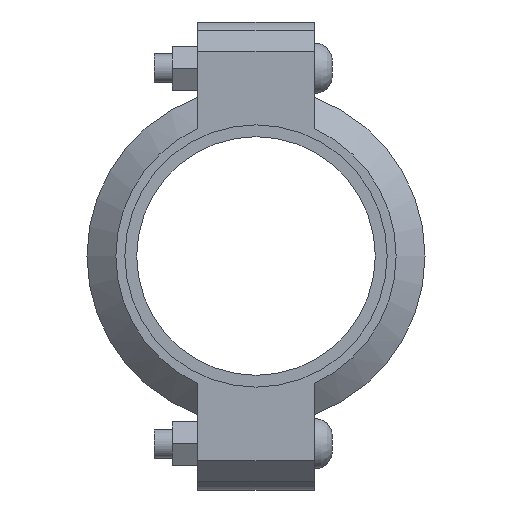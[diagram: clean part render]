
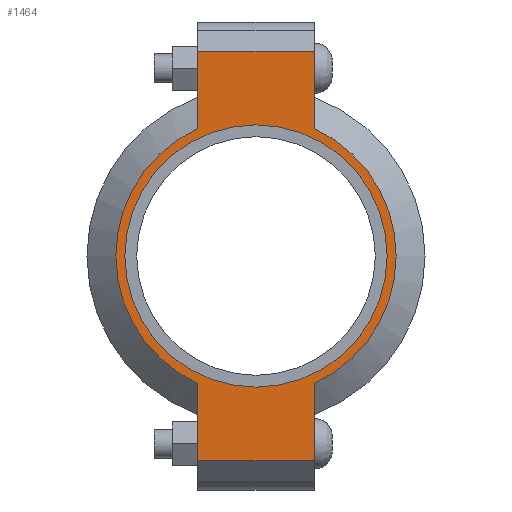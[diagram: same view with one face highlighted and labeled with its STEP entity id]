
A CAD part, left-side view. The second image highlights one B-rep face of the part: STEP entity #1464.
In plain terms, the highlighted planar face has unit normal (-1, 0, 0) as drawn and (0, 0, 1) by its records, which use the part's own axes.
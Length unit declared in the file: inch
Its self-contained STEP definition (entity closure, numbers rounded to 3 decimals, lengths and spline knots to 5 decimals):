
#144=LINE('',#2521,#235);
#152=LINE('',#2557,#243);
#159=LINE('',#2578,#250);
#168=LINE('',#2610,#259);
#169=LINE('',#2614,#260);
#170=LINE('',#2616,#261);
#235=VECTOR('',#2039,0.3937);
#243=VECTOR('',#2055,0.3937);
#250=VECTOR('',#2074,0.3937);
#259=VECTOR('',#2099,0.3937);
#260=VECTOR('',#2104,0.3937);
#261=VECTOR('',#2105,0.3937);
#313=FACE_BOUND('',#473,.T.);
#377=FACE_OUTER_BOUND('',#472,.T.);
#472=EDGE_LOOP('',(#1199,#1200,#1201,#1202,#1203,#1204,#1205,#1206));
#473=EDGE_LOOP('',(#1207));
#570=CIRCLE('',#1707,2.405);
#571=CIRCLE('',#1708,2.405);
#572=CIRCLE('',#1709,2.25);
#675=VERTEX_POINT('',#2518);
#676=VERTEX_POINT('',#2520);
#687=VERTEX_POINT('',#2552);
#688=VERTEX_POINT('',#2556);
#695=VERTEX_POINT('',#2575);
#696=VERTEX_POINT('',#2577);
#706=VERTEX_POINT('',#2613);
#707=VERTEX_POINT('',#2615);
#708=VERTEX_POINT('',#2618);
#839=EDGE_CURVE('',#676,#675,#144,.T.);
#853=EDGE_CURVE('',#688,#687,#152,.T.);
#863=EDGE_CURVE('',#696,#695,#159,.T.);
#878=EDGE_CURVE('',#688,#675,#168,.T.);
#879=EDGE_CURVE('',#687,#696,#570,.T.);
#880=EDGE_CURVE('',#706,#695,#169,.T.);
#881=EDGE_CURVE('',#706,#707,#170,.T.);
#882=EDGE_CURVE('',#707,#676,#571,.T.);
#883=EDGE_CURVE('',#708,#708,#572,.T.);
#1199=ORIENTED_EDGE('',*,*,#878,.F.);
#1200=ORIENTED_EDGE('',*,*,#853,.T.);
#1201=ORIENTED_EDGE('',*,*,#879,.T.);
#1202=ORIENTED_EDGE('',*,*,#863,.T.);
#1203=ORIENTED_EDGE('',*,*,#880,.F.);
#1204=ORIENTED_EDGE('',*,*,#881,.T.);
#1205=ORIENTED_EDGE('',*,*,#882,.T.);
#1206=ORIENTED_EDGE('',*,*,#839,.T.);
#1207=ORIENTED_EDGE('',*,*,#883,.T.);
#1318=PLANE('',#1706);
#1464=ADVANCED_FACE('',(#377,#313),#1318,.T.);
#1706=AXIS2_PLACEMENT_3D('',#2611,#2100,#2101);
#1707=AXIS2_PLACEMENT_3D('',#2612,#2102,#2103);
#1708=AXIS2_PLACEMENT_3D('',#2617,#2106,#2107);
#1709=AXIS2_PLACEMENT_3D('',#2619,#2108,#2109);
#2039=DIRECTION('',(-1.,0.,0.));
#2055=DIRECTION('',(1.,0.,0.));
#2074=DIRECTION('',(1.,0.,0.));
#2099=DIRECTION('',(0.,1.,0.));
#2100=DIRECTION('center_axis',(0.,0.,1.));
#2101=DIRECTION('ref_axis',(1.,0.,0.));
#2102=DIRECTION('center_axis',(0.,0.,1.));
#2103=DIRECTION('ref_axis',(-1.,0.,0.));
#2104=DIRECTION('',(0.,-1.,0.));
#2105=DIRECTION('',(-1.,0.,0.));
#2106=DIRECTION('center_axis',(0.,0.,1.));
#2107=DIRECTION('ref_axis',(-1.,0.,0.));
#2108=DIRECTION('center_axis',(0.,0.,-1.));
#2109=DIRECTION('ref_axis',(-1.,0.,0.));
#2518=CARTESIAN_POINT('',(-3.515,1.,1.065));
#2520=CARTESIAN_POINT('',(-2.18724,1.,1.065));
#2521=CARTESIAN_POINT('',(-4.015,1.,1.065));
#2552=CARTESIAN_POINT('',(-2.18724,-1.,1.065));
#2556=CARTESIAN_POINT('',(-3.515,-1.,1.065));
#2557=CARTESIAN_POINT('',(4.015,-1.,1.065));
#2575=CARTESIAN_POINT('',(3.515,-1.,1.065));
#2577=CARTESIAN_POINT('',(2.18724,-1.,1.065));
#2578=CARTESIAN_POINT('',(4.015,-1.,1.065));
#2610=CARTESIAN_POINT('',(-3.515,0.5,1.065));
#2611=CARTESIAN_POINT('Origin',(0.,0.,1.065));
#2612=CARTESIAN_POINT('Origin',(0.,0.,1.065));
#2613=CARTESIAN_POINT('',(3.515,1.,1.065));
#2614=CARTESIAN_POINT('',(3.515,-0.5,1.065));
#2615=CARTESIAN_POINT('',(2.18724,1.,1.065));
#2616=CARTESIAN_POINT('',(-4.015,1.,1.065));
#2617=CARTESIAN_POINT('Origin',(0.,0.,1.065));
#2618=CARTESIAN_POINT('',(2.25,0.,1.065));
#2619=CARTESIAN_POINT('Origin',(0.,0.,1.065));
